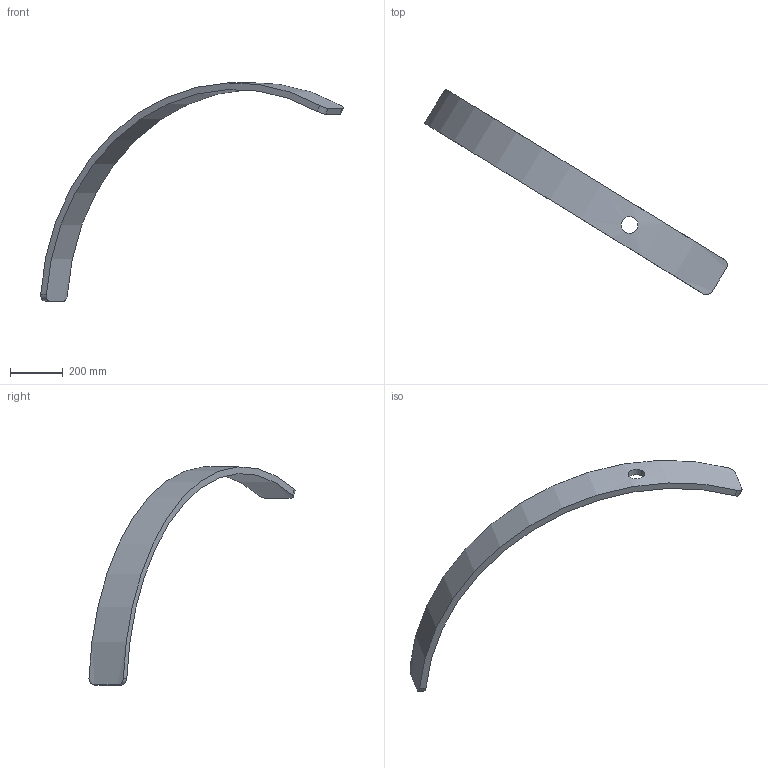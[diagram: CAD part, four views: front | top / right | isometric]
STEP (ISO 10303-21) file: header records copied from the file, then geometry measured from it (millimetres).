
FILE_DESCRIPTION (( 'STEP AP214' ), '1' );
FILE_NAME ('Section 7 AR.STEP', '2025-01-09T19:43:28', ( '' ), ( '' ), 'SwSTEP 2.0', 'SolidWorks 2024', '' );
FILE_SCHEMA (( 'AUTOMOTIVE_DESIGN' ));
Length unit declared in the file: inch
Products named in the file (1): Section 7 AR
Bounding box: 1147 x 780.81 x 828.17 mm (x, y, z)
Volume: 6526171.9 mm3; surface area: 612466 mm2
Topology: 1 solids, 1 shells, 11 faces, 27 edges, 18 vertices
Faces by surface type: cylinder 7, plane 4
Full cylindrical faces by diameter (mm): 63.5 x1
Entity records: 815 total; most frequent: CARTESIAN_POINT 540, ORIENTED_EDGE 52, DIRECTION 44, EDGE_CURVE 26, VERTEX_POINT 18, AXIS2_PLACEMENT_3D 16, EDGE_LOOP 14, VECTOR 12
